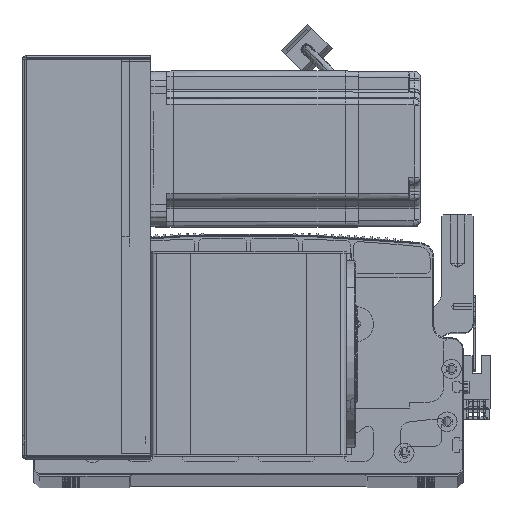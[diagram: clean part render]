
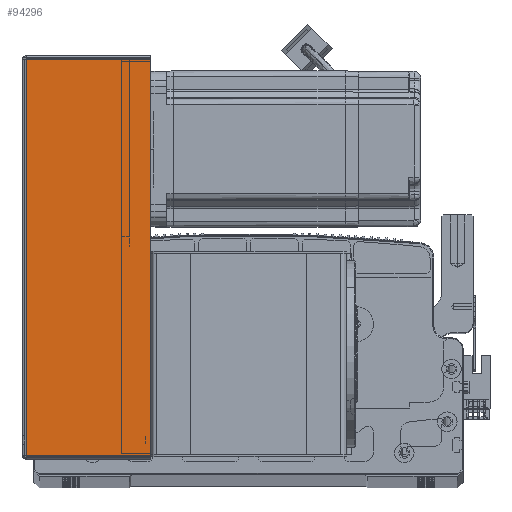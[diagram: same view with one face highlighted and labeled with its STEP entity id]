
A CAD part, top view. The second image highlights one B-rep face of the part: STEP entity #94296.
In plain terms, the highlighted planar face has unit normal (0, 0, 1) as drawn and (0, 1, 0) by its records, which use the part's own axes.
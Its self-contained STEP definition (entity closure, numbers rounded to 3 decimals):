
#2908 = VERTEX_POINT ( 'NONE', #76127 ) ;
#6979 = EDGE_CURVE ( 'NONE', #77247, #57062, #62517, .T. ) ;
#7060 = FACE_OUTER_BOUND ( 'NONE', #78672, .T. ) ;
#10546 = CARTESIAN_POINT ( 'NONE',  ( 64.5, 107.5, -204. ) ) ;
#14023 = VECTOR ( 'NONE', #61021, 1000. ) ;
#19358 = CARTESIAN_POINT ( 'NONE',  ( 64.5, 107.5, -0.707 ) ) ;
#19861 = LINE ( 'NONE', #62514, #88739 ) ;
#21946 = ORIENTED_EDGE ( 'NONE', *, *, #6979, .T. ) ;
#23922 = LINE ( 'NONE', #52742, #14023 ) ;
#26145 = PLANE ( 'NONE',  #86409 ) ;
#34031 = DIRECTION ( 'NONE',  ( 0., -1., 0. ) ) ;
#49202 = VERTEX_POINT ( 'NONE', #64586 ) ;
#52742 = CARTESIAN_POINT ( 'NONE',  ( 0., 107.5, -203.293 ) ) ;
#53905 = VECTOR ( 'NONE', #58336, 1000. ) ;
#57062 = VERTEX_POINT ( 'NONE', #86732 ) ;
#58336 = DIRECTION ( 'NONE',  ( 0., 0., -1. ) ) ;
#60251 = ORIENTED_EDGE ( 'NONE', *, *, #75669, .T. ) ;
#61021 = DIRECTION ( 'NONE',  ( 1., 0., 0. ) ) ;
#62514 = CARTESIAN_POINT ( 'NONE',  ( 0., 107.5, -0.707 ) ) ;
#62517 = LINE ( 'NONE', #10546, #53905 ) ;
#64586 = CARTESIAN_POINT ( 'NONE',  ( 0.737, 107.5, -0.707 ) ) ;
#72773 = LINE ( 'NONE', #84751, #101054 ) ;
#72980 = EDGE_CURVE ( 'NONE', #2908, #57062, #23922, .T. ) ;
#73269 = CARTESIAN_POINT ( 'NONE',  ( 0., 107.5, 0. ) ) ;
#75669 = EDGE_CURVE ( 'NONE', #49202, #77247, #19861, .T. ) ;
#76127 = CARTESIAN_POINT ( 'NONE',  ( 0.737, 107.5, -203.293 ) ) ;
#77247 = VERTEX_POINT ( 'NONE', #19358 ) ;
#78557 = EDGE_CURVE ( 'NONE', #49202, #2908, #72773, .T. ) ;
#78672 = EDGE_LOOP ( 'NONE', ( #81068, #60251, #21946, #87718 ) ) ;
#81068 = ORIENTED_EDGE ( 'NONE', *, *, #78557, .F. ) ;
#84751 = CARTESIAN_POINT ( 'NONE',  ( 0.737, 107.5, 0. ) ) ;
#86409 = AXIS2_PLACEMENT_3D ( 'NONE', #73269, #34031, #94904 ) ;
#86732 = CARTESIAN_POINT ( 'NONE',  ( 64.5, 107.5, -203.293 ) ) ;
#87718 = ORIENTED_EDGE ( 'NONE', *, *, #72980, .F. ) ;
#88739 = VECTOR ( 'NONE', #91731, 1000. ) ;
#91731 = DIRECTION ( 'NONE',  ( 1., 0., 0. ) ) ;
#92683 = DIRECTION ( 'NONE',  ( 0., 0., -1. ) ) ;
#94296 = ADVANCED_FACE ( 'NONE', ( #7060 ), #26145, .F. ) ;
#94904 = DIRECTION ( 'NONE',  ( 1., 0., 0. ) ) ;
#101054 = VECTOR ( 'NONE', #92683, 1000. ) ;
